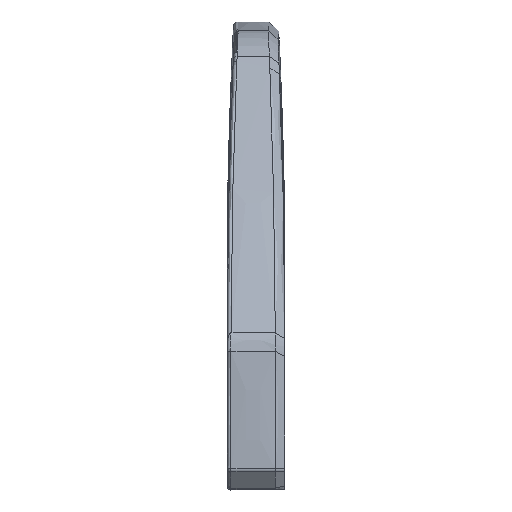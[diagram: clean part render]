
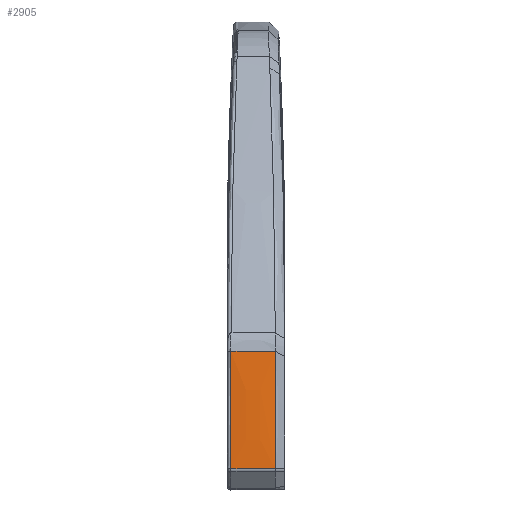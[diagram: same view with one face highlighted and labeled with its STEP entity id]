
A CAD part, left-side view. The second image highlights one B-rep face of the part: STEP entity #2905.
In plain terms, the highlighted free-form (B-spline) face has degree [3, 3] with [4, 6] control points.
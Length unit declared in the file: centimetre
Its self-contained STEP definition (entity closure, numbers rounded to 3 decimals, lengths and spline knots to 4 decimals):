
#351=ORIENTED_EDGE('trim curve',*,*,#1564,.F.);
#352=ORIENTED_EDGE('trim curve',*,*,#1375,.F.);
#353=ORIENTED_EDGE('trim curve',*,*,#1370,.F.);
#354=ORIENTED_EDGE('trim curve',*,*,#1565,.F.);
#991=VERTEX_POINT('Trimming Point',#3131);
#1035=VERTEX_POINT('Trimming Point',#4054);
#1039=VERTEX_POINT('Trimming Point',#4114);
#1194=VERTEX_POINT('Trimming Point',#6976);
#1370=EDGE_CURVE('Edge Curve',#1035,#991,#1882,.T.);
#1375=EDGE_CURVE('Edge Curve',#991,#1039,#1887,.T.);
#1564=EDGE_CURVE('Edge Curve',#1039,#1194,#2076,.T.);
#1565=EDGE_CURVE('Edge Curve',#1194,#1035,#2077,.T.);
#1882=(
BOUNDED_CURVE()
B_SPLINE_CURVE(3,(#4055,#4056,#4057,#4058,#4059,#4060,#4061,#4062,#4063,
#4064,#4065,#4066,#4067,#4068),.UNSPECIFIED.,.U.,.U.)
B_SPLINE_CURVE_WITH_KNOTS((4,1,1,1,1,1,1,1,1,1,1,4),(0.,0.3126,
0.4157,0.5187,0.6217,0.6835,0.8154,
0.8418,0.8813,0.9209,0.9604,
1.),.UNSPECIFIED.)
CURVE()
GEOMETRIC_REPRESENTATION_ITEM()
RATIONAL_B_SPLINE_CURVE((1.,1.,1.,1.,1.,1.,1.,1.,1.,1.,1.,1.,1.,1.))
REPRESENTATION_ITEM('node')
);
#1887=(
BOUNDED_CURVE()
B_SPLINE_CURVE(3,(#4111,#4112,#4113,#4114),.UNSPECIFIED.,.U.,.U.)
B_SPLINE_CURVE_WITH_KNOTS((4,4),(0.,1.4605),.UNSPECIFIED.)
CURVE()
GEOMETRIC_REPRESENTATION_ITEM()
RATIONAL_B_SPLINE_CURVE((1.,1.,1.,1.))
REPRESENTATION_ITEM('node')
);
#2076=(
BOUNDED_CURVE()
B_SPLINE_CURVE(3,(#6971,#6972,#6973,#6974,#6975,#6976),.UNSPECIFIED.,.U.,
 .U.)
B_SPLINE_CURVE_WITH_KNOTS((4,1,1,4),(0.,0.9342,2.6152,
3.8805),.UNSPECIFIED.)
CURVE()
GEOMETRIC_REPRESENTATION_ITEM()
RATIONAL_B_SPLINE_CURVE((1.,1.,1.,1.,1.,1.))
REPRESENTATION_ITEM('node')
);
#2077=(
BOUNDED_CURVE()
B_SPLINE_CURVE(3,(#6977,#6978,#6979,#6980),.UNSPECIFIED.,.U.,.U.)
B_SPLINE_CURVE_WITH_KNOTS((4,4),(0.,0.7667),.UNSPECIFIED.)
CURVE()
GEOMETRIC_REPRESENTATION_ITEM()
RATIONAL_B_SPLINE_CURVE((1.,1.,1.,1.))
REPRESENTATION_ITEM('node')
);
#2392=EDGE_LOOP('trim boundary',(#351,#352,#353,#354));
#2567=FACE_OUTER_BOUND('Boundary Edges',#2392,.T.);
#2736=(
BOUNDED_SURFACE()
B_SPLINE_SURFACE(3,3,((#6947,#6948,#6949,#6950,#6951,#6952),(#6953,#6954,
#6955,#6956,#6957,#6958),(#6959,#6960,#6961,#6962,#6963,#6964),(#6965,#6966,
#6967,#6968,#6969,#6970)),.UNSPECIFIED.,.U.,.U.,.U.)
B_SPLINE_SURFACE_WITH_KNOTS((4,4),(4,1,1,4),(0.,1.),(0.,1.2654,
2.9465,4.8247),.UNSPECIFIED.)
GEOMETRIC_REPRESENTATION_ITEM()
RATIONAL_B_SPLINE_SURFACE(((1.,1.,1.,1.,1.,1.),(1.,1.,1.,1.,1.,1.),(1.,1.,
1.,1.,1.,1.),(1.,1.,1.,1.,1.,1.)))
REPRESENTATION_ITEM('trim region')
SURFACE()
);
#2905=ADVANCED_FACE('trim region',(#2567),#2736,.T.);
#3131=CARTESIAN_POINT('CVs',(-50.3009,3.4245,1.481));
#4054=CARTESIAN_POINT('CVs',(-50.0793,3.4245,5.3542));
#4055=CARTESIAN_POINT('CVs',(-50.0793,3.4245,5.3542));
#4056=CARTESIAN_POINT('CVs',(-50.12,3.4245,4.9519));
#4057=CARTESIAN_POINT('CVs',(-50.1646,3.4245,4.416));
#4058=CARTESIAN_POINT('CVs',(-50.2086,3.4245,3.7465));
#4059=CARTESIAN_POINT('CVs',(-50.2316,3.4245,3.3474));
#4060=CARTESIAN_POINT('CVs',(-50.2489,3.4245,3.0013));
#4061=CARTESIAN_POINT('CVs',(-50.2658,3.4245,2.6179));
#4062=CARTESIAN_POINT('CVs',(-50.2766,3.4245,2.3335));
#4063=CARTESIAN_POINT('CVs',(-50.285,3.4245,2.0777));
#4064=CARTESIAN_POINT('CVs',(-50.2891,3.4245,1.9414));
#4065=CARTESIAN_POINT('CVs',(-50.2935,3.4245,1.7879));
#4066=CARTESIAN_POINT('CVs',(-50.2974,3.4245,1.6345));
#4067=CARTESIAN_POINT('CVs',(-50.2998,3.4245,1.5322));
#4068=CARTESIAN_POINT('CVs',(-50.3009,3.4245,1.481));
#4111=CARTESIAN_POINT('CVs',(-50.3009,3.4245,1.481));
#4112=CARTESIAN_POINT('CVs',(-50.3009,3.9114,1.481));
#4113=CARTESIAN_POINT('CVs',(-50.3009,4.3982,1.481));
#4114=CARTESIAN_POINT('CVs',(-50.3009,4.885,1.481));
#6947=CARTESIAN_POINT('CVs',(-50.0793,3.107,5.3542));
#6948=CARTESIAN_POINT('CVs',(-50.1218,3.107,4.9347));
#6949=CARTESIAN_POINT('CVs',(-50.2024,3.107,3.9556));
#6950=CARTESIAN_POINT('CVs',(-50.2844,3.107,2.3495));
#6951=CARTESIAN_POINT('CVs',(-50.3101,3.107,1.1633));
#6952=CARTESIAN_POINT('CVs',(-50.3151,3.107,0.5374));
#6953=CARTESIAN_POINT('CVs',(-50.0793,3.742,5.3542));
#6954=CARTESIAN_POINT('CVs',(-50.1218,3.742,4.9347));
#6955=CARTESIAN_POINT('CVs',(-50.2024,3.742,3.9556));
#6956=CARTESIAN_POINT('CVs',(-50.2844,3.742,2.3495));
#6957=CARTESIAN_POINT('CVs',(-50.3101,3.742,1.1633));
#6958=CARTESIAN_POINT('CVs',(-50.3151,3.742,0.5374));
#6959=CARTESIAN_POINT('CVs',(-50.0793,4.377,5.3542));
#6960=CARTESIAN_POINT('CVs',(-50.1218,4.377,4.9347));
#6961=CARTESIAN_POINT('CVs',(-50.2024,4.377,3.9556));
#6962=CARTESIAN_POINT('CVs',(-50.2844,4.377,2.3495));
#6963=CARTESIAN_POINT('CVs',(-50.3101,4.377,1.1633));
#6964=CARTESIAN_POINT('CVs',(-50.3151,4.377,0.5374));
#6965=CARTESIAN_POINT('CVs',(-50.0793,5.012,5.3542));
#6966=CARTESIAN_POINT('CVs',(-50.1218,5.012,4.9347));
#6967=CARTESIAN_POINT('CVs',(-50.2024,5.012,3.9556));
#6968=CARTESIAN_POINT('CVs',(-50.2844,5.012,2.3495));
#6969=CARTESIAN_POINT('CVs',(-50.3101,5.012,1.1633));
#6970=CARTESIAN_POINT('CVs',(-50.3151,5.012,0.5374));
#6971=CARTESIAN_POINT('CVs',(-50.3009,4.885,1.481));
#6972=CARTESIAN_POINT('CVs',(-50.294,4.885,1.7923));
#6973=CARTESIAN_POINT('CVs',(-50.2684,4.885,2.6637));
#6974=CARTESIAN_POINT('CVs',(-50.2024,4.885,3.9556));
#6975=CARTESIAN_POINT('CVs',(-50.1218,4.885,4.9347));
#6976=CARTESIAN_POINT('CVs',(-50.0793,4.885,5.3542));
#6977=CARTESIAN_POINT('CVs',(-50.0793,4.885,5.3542));
#6978=CARTESIAN_POINT('CVs',(-50.0793,4.3982,5.3542));
#6979=CARTESIAN_POINT('CVs',(-50.0793,3.9114,5.3542));
#6980=CARTESIAN_POINT('CVs',(-50.0793,3.4245,5.3542));
